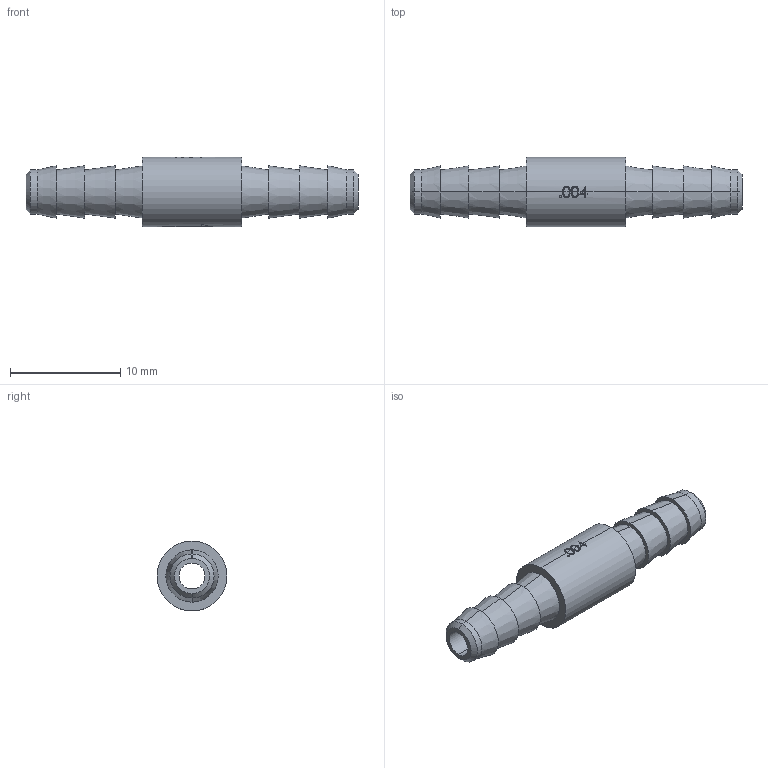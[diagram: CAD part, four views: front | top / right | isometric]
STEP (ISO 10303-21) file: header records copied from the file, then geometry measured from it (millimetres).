
FILE_DESCRIPTION(/* description */ ('SolidWorks IGES file using analytic representation for surfaces '),/* implementation_level */ '2;1');
FILE_NAME(/* name */ 'K:\Normteile INVENTOR\Air-Logic\Orifice restrictors\F-2815-041-B85.IGS.ipt.stp',/* time_stamp */ '2020-05-27T10:45:42+02:00',/* author */ ('cad'),/* organization */ (''),/* preprocessor_version */ 'ST-DEVELOPER v18',/* originating_system */ 'Autodesk Inventor 2020',/* authorisation */ '');
FILE_SCHEMA (('AUTOMOTIVE_DESIGN { 1 0 10303 214 3 1 1 }'));
Length unit declared in the file: millimetre
Products named in the file (1): F-2815-041-B85.IGS
Bounding box: 30.15 x 6.35 x 6.35 mm (x, y, z)
Surface area: 765 mm2 (no closed solid volume)
Topology: 0 solids, 94 shells, 94 faces, 455 edges, 455 vertices
Faces by surface type: plane 26, bspline 26, cylinder 22, cone 20
Entity records: 8047 total; most frequent: CARTESIAN_POINT 4454, DIRECTION 618, VERTEX_POINT 455, EDGE_CURVE 455, ORIENTED_EDGE 455, LINE 230, VECTOR 230, AXIS2_PLACEMENT_3D 194
